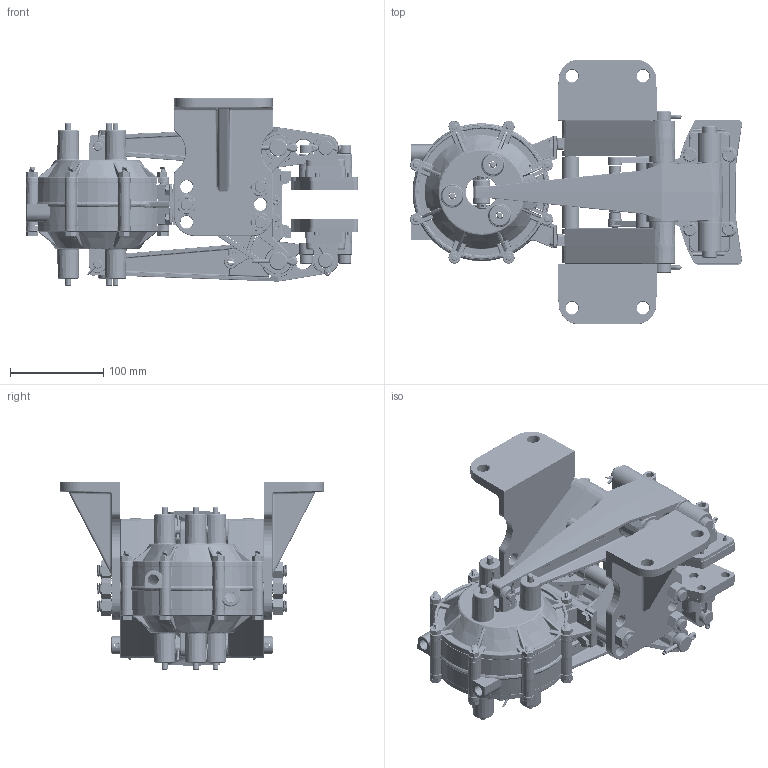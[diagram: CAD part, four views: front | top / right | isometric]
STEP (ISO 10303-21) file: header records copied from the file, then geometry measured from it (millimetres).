
FILE_DESCRIPTION (( 'STEP AP214' ), '1' );
FILE_NAME ('5020-AW.STEP', '2017-09-28T21:16:58', ( '' ), ( '' ), 'SwSTEP 2.0', 'SolidWorks 2017', '' );
FILE_SCHEMA (( 'AUTOMOTIVE_DESIGN' ));
Length unit declared in the file: inch
Products named in the file (1): 5020-AW
Bounding box: 356.47 x 284.48 x 201.93 mm (x, y, z)
Surface area: 665851.3 mm2 (no closed solid volume)
Topology: 0 solids, 165 shells, 3160 faces, 9324 edges, 6022 vertices
Faces by surface type: plane 913, cylinder 840, cone 516, bspline 458, torus 402, sphere 31
Full cylindrical faces by diameter (mm): 3.175 x2, 3.454 x11, 3.797 x1, 4.762 x8, 4.763 x4, 6.35 x69, 6.528 x2, 7.95 x4, 8.001 x1, 9.525 x2, 10.033 x18, 11.887 x2, 12.7 x59, 13.494 x10, 14.288 x8, 15.875 x2, 19.05 x5, 19.177 x1
Entity records: 182373 total; most frequent: CARTESIAN_POINT 69239, DIRECTION 15066, ORIENTED_EDGE 14028, EDGE_CURVE 8578, AXIS2_PLACEMENT_3D 6063, VERTEX_POINT 5688, EDGE_LOOP 3674, CIRCLE 3477
